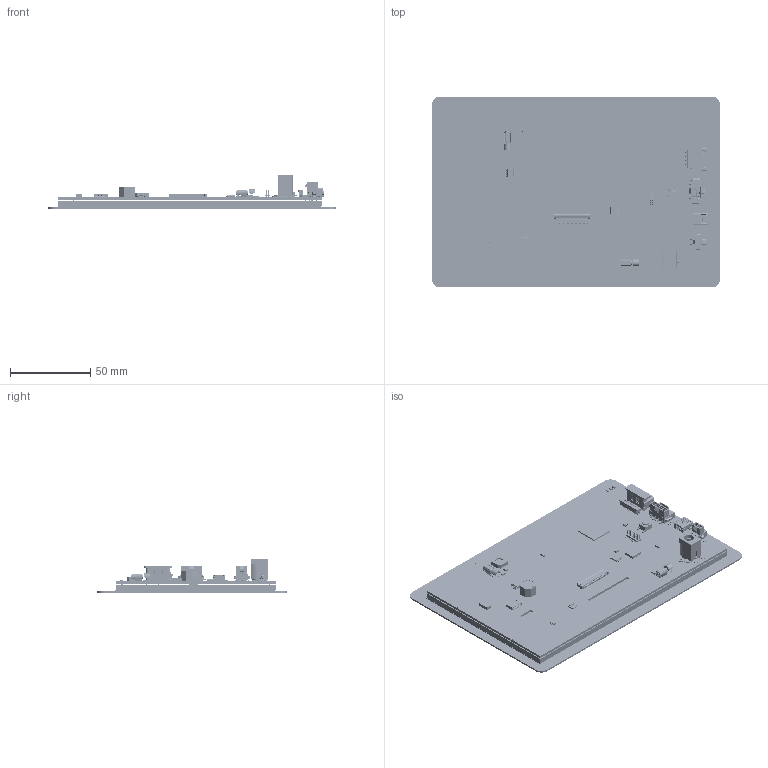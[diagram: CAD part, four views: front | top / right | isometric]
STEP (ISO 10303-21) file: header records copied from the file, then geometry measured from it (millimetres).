
FILE_DESCRIPTION (( 'STEP AP214' ), '1' );
FILE_NAME ('HTT70G R3.0.2.STEP', '2021-04-06T18:15:43', ( '' ), ( '' ), 'SwSTEP 2.0', 'SolidWorks 2018', '' );
FILE_SCHEMA (( 'AUTOMOTIVE_DESIGN' ));
Length unit declared in the file: millimetre
Products named in the file (7): HTT70G Display Assembly; TPN10060; HTT70G R3.0.2; HTT70x R3.0.2; MOP-TFT800480-70A-TPN; TPN10060 Assembly; TPN10060 Display Adhesive
Assembly tree (6 placements, depth 4):
  HTT70G R3.0.2
    HTT70x R3.0.2
    HTT70G Display Assembly
      MOP-TFT800480-70A-TPN
      TPN10060 Assembly
        TPN10060
        TPN10060 Display Adhesive
Bounding box: 179.96 x 119 x 21.39 mm (x, y, z)
Volume: 90160.4 mm3; surface area: 131229.4 mm2
Topology: 3 solids, 194 shells, 14053 faces, 39117 edges, 25323 vertices
Faces by surface type: plane 9840, cylinder 2722, bspline 1413, cone 38, sphere 30, torus 10
Entity records: 616697 total; most frequent: CARTESIAN_POINT 108530, ORIENTED_EDGE 78192, DIRECTION 66055, EDGE_CURVE 39097, VECTOR 29831, LINE 29831, VERTEX_POINT 25315, AXIS2_PLACEMENT_3D 18112
